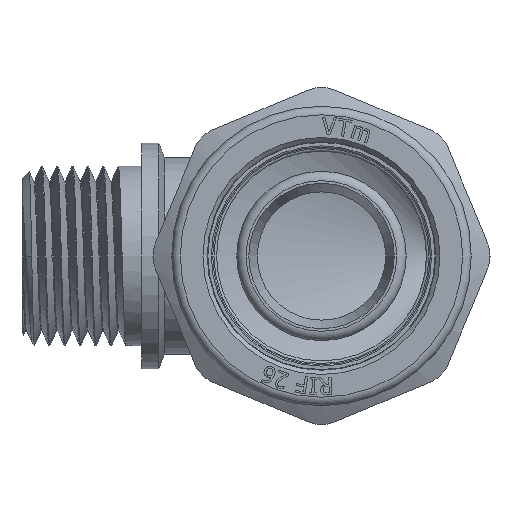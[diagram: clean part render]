
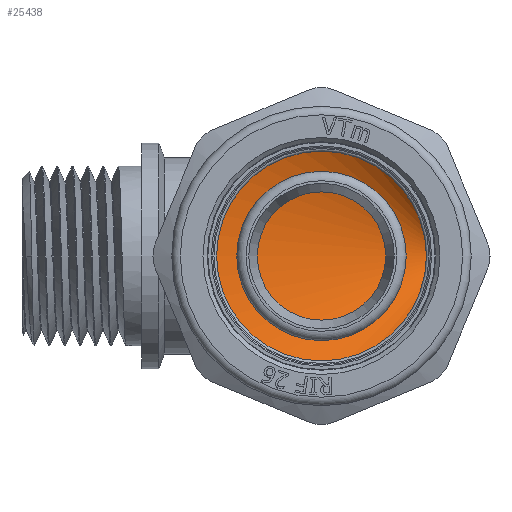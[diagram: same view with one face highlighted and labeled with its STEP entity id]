
A CAD part, left-side view. The second image highlights one B-rep face of the part: STEP entity #25438.
In plain terms, the highlighted cylindrical face has radius 15.25 mm (diameter 30.5 mm), a full revolution.
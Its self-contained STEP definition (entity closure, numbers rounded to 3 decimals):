
#1431=FACE_OUTER_BOUND('',#2869,.T.);
#2869=EDGE_LOOP('',(#17066,#17067,#17068,#17069,#17070,#17071,#17072,#17073));
#4427=CIRCLE('',#26899,15.25);
#4428=CIRCLE('',#26900,15.25);
#4429=CIRCLE('',#26901,15.25);
#5026=B_SPLINE_CURVE_WITH_KNOTS('',3,(#32483,#32484,#32485,#32486,#32487,
#32488,#32489,#32490,#32491,#32492,#32493,#32494,#32495,#32496,#32497,#32498,
#32499,#32500,#32501,#32502,#32503,#32504,#32505,#32506,#32507,#32508,#32509,
#32510,#32511,#32512,#32513,#32514,#32515,#32516),.UNSPECIFIED.,.F.,.F.,
(4,3,3,3,3,3,3,3,3,3,3,4),(1.209,1.479,1.972,
2.465,2.958,3.451,3.944,4.437,
4.93,5.424,5.917,6.096),
 .UNSPECIFIED.);
#5027=B_SPLINE_CURVE_WITH_KNOTS('',3,(#32519,#32520,#32521,#32522,#32523,
#32524,#32525,#32526,#32527,#32528),.UNSPECIFIED.,.F.,.F.,(4,3,3,4),(-1.271,
-0.973,-0.486,-0.148),.UNSPECIFIED.);
#6740=LINE('',#32481,#8474);
#6741=LINE('',#32530,#8475);
#8474=VECTOR('',#28183,15.25);
#8475=VECTOR('',#28186,15.25);
#10208=VERTEX_POINT('',#32479);
#10209=VERTEX_POINT('',#32480);
#10210=VERTEX_POINT('',#32482);
#10211=VERTEX_POINT('',#32517);
#10212=VERTEX_POINT('',#32529);
#10213=VERTEX_POINT('',#32531);
#12975=EDGE_CURVE('',#10208,#10209,#6740,.T.);
#12976=EDGE_CURVE('',#10210,#10208,#5026,.T.);
#12977=EDGE_CURVE('',#10211,#10210,#4427,.T.);
#12978=EDGE_CURVE('',#10209,#10211,#5027,.T.);
#12979=EDGE_CURVE('',#10209,#10212,#6741,.T.);
#12980=EDGE_CURVE('',#10213,#10212,#4428,.T.);
#12981=EDGE_CURVE('',#10212,#10213,#4429,.T.);
#17066=ORIENTED_EDGE('',*,*,#12975,.F.);
#17067=ORIENTED_EDGE('',*,*,#12976,.F.);
#17068=ORIENTED_EDGE('',*,*,#12977,.F.);
#17069=ORIENTED_EDGE('',*,*,#12978,.F.);
#17070=ORIENTED_EDGE('',*,*,#12979,.T.);
#17071=ORIENTED_EDGE('',*,*,#12980,.F.);
#17072=ORIENTED_EDGE('',*,*,#12981,.F.);
#17073=ORIENTED_EDGE('',*,*,#12979,.F.);
#25248=CYLINDRICAL_SURFACE('',#26898,15.25);
#25438=ADVANCED_FACE('',(#1431),#25248,.F.);
#26898=AXIS2_PLACEMENT_3D('',#32478,#28181,#28182);
#26899=AXIS2_PLACEMENT_3D('',#32518,#28184,#28185);
#26900=AXIS2_PLACEMENT_3D('',#32532,#28187,#28188);
#26901=AXIS2_PLACEMENT_3D('',#32533,#28189,#28190);
#28181=DIRECTION('center_axis',(1.,0.,0.));
#28182=DIRECTION('ref_axis',(0.,1.,0.));
#28183=DIRECTION('',(-1.,0.,0.));
#28184=DIRECTION('center_axis',(-1.,0.,0.));
#28185=DIRECTION('ref_axis',(0.,1.,0.));
#28186=DIRECTION('',(-1.,0.,0.));
#28187=DIRECTION('center_axis',(1.,0.,0.));
#28188=DIRECTION('ref_axis',(0.,0.,1.));
#28189=DIRECTION('center_axis',(1.,0.,0.));
#28190=DIRECTION('ref_axis',(0.,0.,1.));
#32478=CARTESIAN_POINT('Origin',(-31.82,0.,
0.));
#32479=CARTESIAN_POINT('',(-27.611,-15.25,0.));
#32480=CARTESIAN_POINT('',(-28.989,-15.25,0.));
#32481=CARTESIAN_POINT('',(-31.82,-15.25,0.));
#32482=CARTESIAN_POINT('',(-29.4,-2.658,-15.017));
#32483=CARTESIAN_POINT('Ctrl Pts',(-29.4,-2.658,
-15.015));
#32484=CARTESIAN_POINT('Ctrl Pts',(-29.367,-1.303,-15.255));
#32485=CARTESIAN_POINT('Ctrl Pts',(-29.334,0.084,
-15.313));
#32486=CARTESIAN_POINT('Ctrl Pts',(-29.301,1.453,-15.182));
#32487=CARTESIAN_POINT('Ctrl Pts',(-29.241,3.947,-14.943));
#32488=CARTESIAN_POINT('Ctrl Pts',(-29.181,6.382,-14.077));
#32489=CARTESIAN_POINT('Ctrl Pts',(-29.12,8.466,-12.686));
#32490=CARTESIAN_POINT('Ctrl Pts',(-29.06,10.55,-11.295));
#32491=CARTESIAN_POINT('Ctrl Pts',(-29.,12.284,-9.38));
#32492=CARTESIAN_POINT('Ctrl Pts',(-28.94,13.462,-7.168));
#32493=CARTESIAN_POINT('Ctrl Pts',(-28.88,14.639,-4.956));
#32494=CARTESIAN_POINT('Ctrl Pts',(-28.82,15.261,-2.448));
#32495=CARTESIAN_POINT('Ctrl Pts',(-28.759,15.251,0.057));
#32496=CARTESIAN_POINT('Ctrl Pts',(-28.699,15.242,2.563));
#32497=CARTESIAN_POINT('Ctrl Pts',(-28.639,14.602,5.066));
#32498=CARTESIAN_POINT('Ctrl Pts',(-28.579,13.407,7.269));
#32499=CARTESIAN_POINT('Ctrl Pts',(-28.519,12.213,9.472));
#32500=CARTESIAN_POINT('Ctrl Pts',(-28.459,10.465,11.374));
#32501=CARTESIAN_POINT('Ctrl Pts',(-28.399,8.37,12.749));
#32502=CARTESIAN_POINT('Ctrl Pts',(-28.338,6.275,14.124));
#32503=CARTESIAN_POINT('Ctrl Pts',(-28.278,3.835,14.972));
#32504=CARTESIAN_POINT('Ctrl Pts',(-28.218,1.339,15.192));
#32505=CARTESIAN_POINT('Ctrl Pts',(-28.158,-1.157,
15.412));
#32506=CARTESIAN_POINT('Ctrl Pts',(-28.098,-3.709,15.004));
#32507=CARTESIAN_POINT('Ctrl Pts',(-28.038,-6.012,
14.016));
#32508=CARTESIAN_POINT('Ctrl Pts',(-27.977,-8.314,
13.029));
#32509=CARTESIAN_POINT('Ctrl Pts',(-27.917,-10.369,
11.462));
#32510=CARTESIAN_POINT('Ctrl Pts',(-27.857,-11.93,
9.502));
#32511=CARTESIAN_POINT('Ctrl Pts',(-27.797,-13.491,
7.542));
#32512=CARTESIAN_POINT('Ctrl Pts',(-27.737,-14.559,
5.189));
#32513=CARTESIAN_POINT('Ctrl Pts',(-27.677,-15.006,
2.723));
#32514=CARTESIAN_POINT('Ctrl Pts',(-27.655,-15.169,
1.826));
#32515=CARTESIAN_POINT('Ctrl Pts',(-27.633,-15.25,
0.913));
#32516=CARTESIAN_POINT('Ctrl Pts',(-27.611,-15.249,
0.));
#32517=CARTESIAN_POINT('',(-29.4,-6.611,13.743));
#32518=CARTESIAN_POINT('Origin',(-29.4,0.,
0.));
#32519=CARTESIAN_POINT('Ctrl Pts',(-28.989,-15.249,
0.));
#32520=CARTESIAN_POINT('Ctrl Pts',(-29.025,-15.248,
1.515));
#32521=CARTESIAN_POINT('Ctrl Pts',(-29.062,-15.024,
3.03));
#32522=CARTESIAN_POINT('Ctrl Pts',(-29.098,-14.579,4.478));
#32523=CARTESIAN_POINT('Ctrl Pts',(-29.158,-13.853,6.841));
#32524=CARTESIAN_POINT('Ctrl Pts',(-29.217,-12.541,9.025));
#32525=CARTESIAN_POINT('Ctrl Pts',(-29.276,-10.794,10.774));
#32526=CARTESIAN_POINT('Ctrl Pts',(-29.318,-9.581,
11.989));
#32527=CARTESIAN_POINT('Ctrl Pts',(-29.359,-8.158,12.995));
#32528=CARTESIAN_POINT('Ctrl Pts',(-29.4,-6.61,
13.741));
#32529=CARTESIAN_POINT('',(-37.245,-15.25,0.));
#32530=CARTESIAN_POINT('',(-31.82,-15.25,0.));
#32531=CARTESIAN_POINT('',(-37.245,15.25,0.));
#32532=CARTESIAN_POINT('Origin',(-37.245,0.,
0.));
#32533=CARTESIAN_POINT('Origin',(-37.245,0.,
0.));
